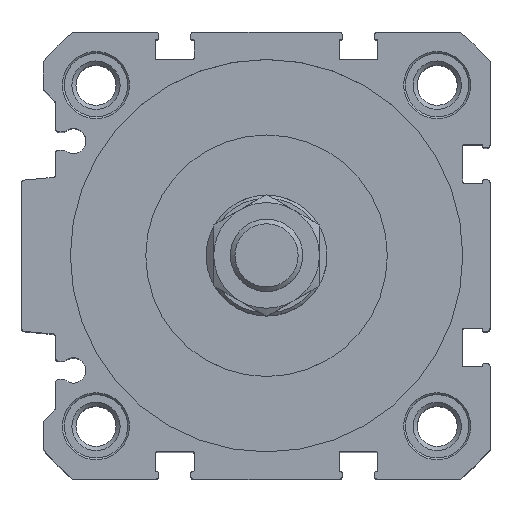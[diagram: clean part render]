
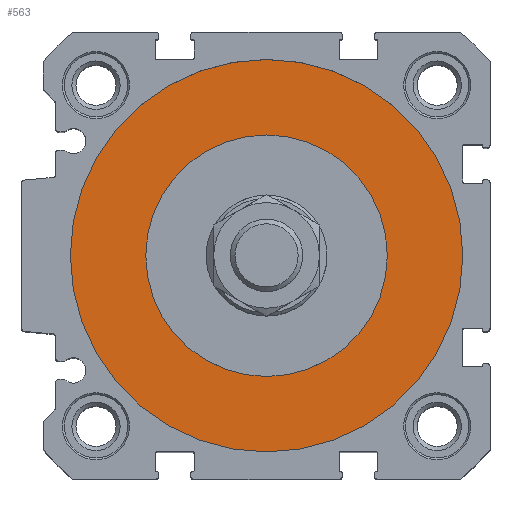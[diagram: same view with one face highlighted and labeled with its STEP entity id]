
A CAD part, top view. The second image highlights one B-rep face of the part: STEP entity #563.
In plain terms, the highlighted planar face has unit normal (0, 0, 1).
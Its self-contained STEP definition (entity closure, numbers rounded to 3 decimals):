
#563 = ADVANCED_FACE( '', ( #1215, #1216 ), #1217, .T. );
#1215 = FACE_BOUND( '', #1961, .T. );
#1216 = FACE_OUTER_BOUND( '', #1962, .T. );
#1217 = PLANE( '', #1963 );
#1961 = EDGE_LOOP( '', ( #3425 ) );
#1962 = EDGE_LOOP( '', ( #3426 ) );
#1963 = AXIS2_PLACEMENT_3D( '', #3427, #3428, #3429 );
#3425 = ORIENTED_EDGE( '', *, *, #4666, .F. );
#3426 = ORIENTED_EDGE( '', *, *, #4749, .T. );
#3427 = CARTESIAN_POINT( '', ( 0., 0., -5.5 ) );
#3428 = DIRECTION( '', ( 0., 0., 1. ) );
#3429 = DIRECTION( '', ( 1., 0., 0. ) );
#4666 = EDGE_CURVE( '', #5710, #5710, #5711, .T. );
#4749 = EDGE_CURVE( '', #5825, #5825, #5826, .T. );
#5710 = VERTEX_POINT( '', #7165 );
#5711 = CIRCLE( '', #7166, 20. );
#5825 = VERTEX_POINT( '', #7307 );
#5826 = CIRCLE( '', #7308, 32.5 );
#7165 = CARTESIAN_POINT( '', ( 20., 0., -5.5 ) );
#7166 = AXIS2_PLACEMENT_3D( '', #8211, #8212, #8213 );
#7307 = CARTESIAN_POINT( '', ( 32.5, 0., -5.5 ) );
#7308 = AXIS2_PLACEMENT_3D( '', #8317, #8318, #8319 );
#8211 = CARTESIAN_POINT( '', ( 0., 0., -5.5 ) );
#8212 = DIRECTION( '', ( 0., 0., 1. ) );
#8213 = DIRECTION( '', ( 1., 0., 0. ) );
#8317 = CARTESIAN_POINT( '', ( 0., 0., -5.5 ) );
#8318 = DIRECTION( '', ( 0., 0., 1. ) );
#8319 = DIRECTION( '', ( 1., 0., 0. ) );
